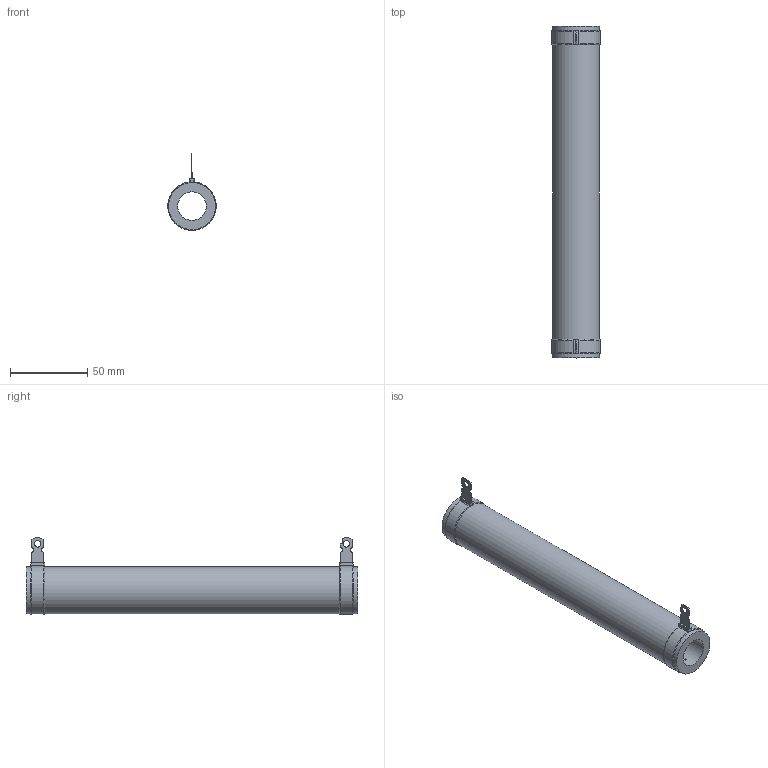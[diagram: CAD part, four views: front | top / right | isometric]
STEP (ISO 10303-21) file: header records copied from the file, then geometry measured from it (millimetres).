
FILE_DESCRIPTION(/* description */ (''),/* implementation_level */ '2;1');
FILE_NAME(/* name */ 'C:\_Vault\Dati\CATALOGO\RCA-RSA\25-1000\CA0200.stp',/* time_stamp */ '2014-01-22T15:13:35+01:00',/* author */ ('stefano'),/* organization */ (''),/* preprocessor_version */ 'ST-DEVELOPER v15.2',/* originating_system */ 'Autodesk Inventor 2014',/* authorisation */ '');
FILE_SCHEMA (('AUTOMOTIVE_DESIGN { 1 0 10303 214 3 1 1 }'));
Length unit declared in the file: millimetre
Products named in the file (1): CA0200
Bounding box: 31.43 x 215 x 49.69 mm (x, y, z)
Volume: 100396.8 mm3; surface area: 34845.3 mm2
Topology: 1 solids, 1 shells, 81 faces, 196 edges, 122 vertices
Faces by surface type: plane 38, cylinder 31, torus 12
Full cylindrical faces by diameter (mm): 4.2 x2, 18.5 x1, 30.5 x3
Entity records: 2509 total; most frequent: CARTESIAN_POINT 462, DIRECTION 428, ORIENTED_EDGE 376, EDGE_CURVE 188, AXIS2_PLACEMENT_3D 166, VERTEX_POINT 120, EDGE_LOOP 98, LINE 96
